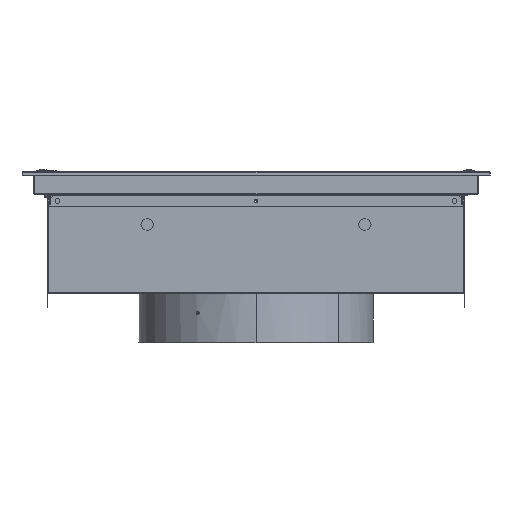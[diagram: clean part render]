
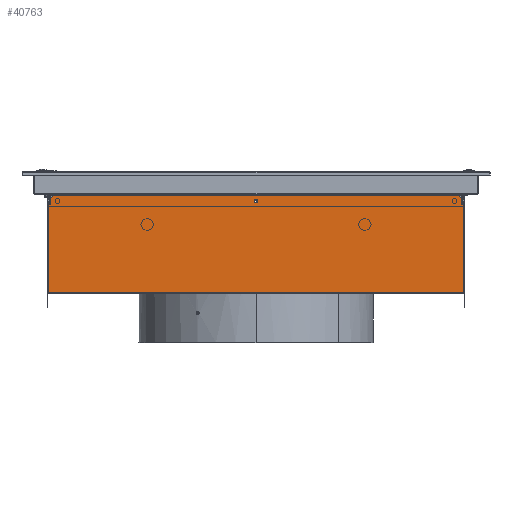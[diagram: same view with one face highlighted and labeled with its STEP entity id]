
A CAD part, left-side view. The second image highlights one B-rep face of the part: STEP entity #40763.
In plain terms, the highlighted planar face has unit normal (-1, 0, 0).
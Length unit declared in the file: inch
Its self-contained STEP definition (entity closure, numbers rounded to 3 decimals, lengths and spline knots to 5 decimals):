
#42 = CARTESIAN_POINT ( 'NONE',  ( -10.56225, -10.51786, -1.44861 ) ) ;
#100 = CIRCLE ( 'NONE', #2800, 0.015 ) ;
#129 = EDGE_CURVE ( 'NONE', #21014, #12484, #18134, .T. ) ;
#250 = CARTESIAN_POINT ( 'NONE',  ( -10.56225, 10.52225, -6.137 ) ) ;
#384 = CARTESIAN_POINT ( 'NONE',  ( -10.56225, 10.27225, -1.203 ) ) ;
#393 = VECTOR ( 'NONE', #26687, 39.37008 ) ;
#602 = DIRECTION ( 'NONE',  ( -1., 0., 0. ) ) ;
#861 = CARTESIAN_POINT ( 'NONE',  ( -10.56225, 0., -1.5046 ) ) ;
#986 = VECTOR ( 'NONE', #12962, 39.37008 ) ;
#1019 = DIRECTION ( 'NONE',  ( 0., 0., -1. ) ) ;
#1525 = VERTEX_POINT ( 'NONE', #34697 ) ;
#1643 = VECTOR ( 'NONE', #39242, 39.37008 ) ;
#1704 = LINE ( 'NONE', #36476, #26811 ) ;
#2120 = VECTOR ( 'NONE', #2717, 39.37008 ) ;
#2134 = CIRCLE ( 'NONE', #7459, 0.075 ) ;
#2251 = EDGE_CURVE ( 'NONE', #26193, #24496, #8034, .T. ) ;
#2717 = DIRECTION ( 'NONE',  ( 0., -1., 0. ) ) ;
#2762 = VERTEX_POINT ( 'NONE', #37942 ) ;
#2777 = EDGE_CURVE ( 'NONE', #1525, #26836, #37746, .T. ) ;
#2800 = AXIS2_PLACEMENT_3D ( 'NONE', #23375, #3635, #38799 ) ;
#3229 = EDGE_CURVE ( 'NONE', #34950, #2762, #29526, .T. ) ;
#3635 = DIRECTION ( 'NONE',  ( -1., 0., 0. ) ) ;
#3742 = AXIS2_PLACEMENT_3D ( 'NONE', #36441, #13763, #17257 ) ;
#4240 = CARTESIAN_POINT ( 'NONE',  ( -10.56225, 0.075, -1.5796 ) ) ;
#5124 = EDGE_LOOP ( 'NONE', ( #23771, #34590, #30477, #41146, #41100, #19510, #17912, #22042, #30864, #27299, #12081, #23821, #40172 ) ) ;
#5824 = EDGE_CURVE ( 'NONE', #12029, #16262, #16402, .T. ) ;
#5844 = CARTESIAN_POINT ( 'NONE',  ( -10.56225, 10.56225, -1.203 ) ) ;
#5920 = VERTEX_POINT ( 'NONE', #18671 ) ;
#6813 = CIRCLE ( 'NONE', #9486, 0.015 ) ;
#6887 = EDGE_CURVE ( 'NONE', #23737, #10101, #38903, .T. ) ;
#6971 = CARTESIAN_POINT ( 'NONE',  ( -10.56225, 0., -1.091 ) ) ;
#7088 = CARTESIAN_POINT ( 'NONE',  ( -10.56225, -10.52225, -1.45921 ) ) ;
#7459 = AXIS2_PLACEMENT_3D ( 'NONE', #861, #13774, #26460 ) ;
#8034 = LINE ( 'NONE', #20496, #1643 ) ;
#8178 = DIRECTION ( 'NONE',  ( 0., 0., 1. ) ) ;
#8231 = AXIS2_PLACEMENT_3D ( 'NONE', #37823, #37436, #8717 ) ;
#8717 = DIRECTION ( 'NONE',  ( 0., 0., -1. ) ) ;
#9486 = AXIS2_PLACEMENT_3D ( 'NONE', #10819, #602, #33080 ) ;
#10101 = VERTEX_POINT ( 'NONE', #31391 ) ;
#10381 = CARTESIAN_POINT ( 'NONE',  ( -10.56225, -10.26604, -1.218 ) ) ;
#10593 = CARTESIAN_POINT ( 'NONE',  ( -10.56225, -0.075, -1.5046 ) ) ;
#10612 = CARTESIAN_POINT ( 'NONE',  ( -10.56225, -0.075, -1.5796 ) ) ;
#10715 = CARTESIAN_POINT ( 'NONE',  ( -10.56225, -10.26604, -1.203 ) ) ;
#10819 = CARTESIAN_POINT ( 'NONE',  ( -10.56225, -10.50725, -1.45921 ) ) ;
#10849 = VECTOR ( 'NONE', #37166, 39.37008 ) ;
#11143 = EDGE_CURVE ( 'NONE', #24496, #12797, #6813, .T. ) ;
#11471 = EDGE_CURVE ( 'NONE', #5920, #10101, #12147, .T. ) ;
#11515 = AXIS2_PLACEMENT_3D ( 'NONE', #14435, #14856, #17339 ) ;
#11728 = CARTESIAN_POINT ( 'NONE',  ( -10.56225, 10.26604, -1.203 ) ) ;
#11776 = LINE ( 'NONE', #24443, #10849 ) ;
#12029 = VERTEX_POINT ( 'NONE', #32932 ) ;
#12081 = ORIENTED_EDGE ( 'NONE', *, *, #11143, .T. ) ;
#12147 = CIRCLE ( 'NONE', #35403, 0.113 ) ;
#12484 = VERTEX_POINT ( 'NONE', #10715 ) ;
#12797 = VERTEX_POINT ( 'NONE', #42 ) ;
#12962 = DIRECTION ( 'NONE',  ( 0., 0., 1. ) ) ;
#13009 = ORIENTED_EDGE ( 'NONE', *, *, #16706, .T. ) ;
#13097 = DIRECTION ( 'NONE',  ( 0., 0.707, -0.707 ) ) ;
#13763 = DIRECTION ( 'NONE',  ( -1., 0., 0. ) ) ;
#13774 = DIRECTION ( 'NONE',  ( 1., 0., 0. ) ) ;
#13907 = DIRECTION ( 'NONE',  ( 0., -1., 0. ) ) ;
#14083 = VECTOR ( 'NONE', #1019, 39.37008 ) ;
#14435 = CARTESIAN_POINT ( 'NONE',  ( -10.56225, 0., -1.091 ) ) ;
#14856 = DIRECTION ( 'NONE',  ( 1., 0., 0. ) ) ;
#15273 = EDGE_CURVE ( 'NONE', #27834, #5920, #32097, .T. ) ;
#16262 = VERTEX_POINT ( 'NONE', #28876 ) ;
#16402 = LINE ( 'NONE', #384, #33355 ) ;
#16706 = EDGE_CURVE ( 'NONE', #28960, #32253, #1704, .T. ) ;
#16986 = DIRECTION ( 'NONE',  ( 0., 0., -1. ) ) ;
#17143 = VECTOR ( 'NONE', #13907, 39.37008 ) ;
#17257 = DIRECTION ( 'NONE',  ( 0., 0., -1. ) ) ;
#17339 = DIRECTION ( 'NONE',  ( 0., 0., -1. ) ) ;
#17912 = ORIENTED_EDGE ( 'NONE', *, *, #23811, .T. ) ;
#18134 = CIRCLE ( 'NONE', #18802, 0.015 ) ;
#18671 = CARTESIAN_POINT ( 'NONE',  ( -10.56225, 0., -1.204 ) ) ;
#18802 = AXIS2_PLACEMENT_3D ( 'NONE', #10381, #26773, #16986 ) ;
#19510 = ORIENTED_EDGE ( 'NONE', *, *, #5824, .T. ) ;
#20496 = CARTESIAN_POINT ( 'NONE',  ( -10.56225, -10.52225, -6.137 ) ) ;
#20864 = LINE ( 'NONE', #4240, #393 ) ;
#21013 = CARTESIAN_POINT ( 'NONE',  ( -10.56225, 0.075, -1.5046 ) ) ;
#21014 = VERTEX_POINT ( 'NONE', #26130 ) ;
#22042 = ORIENTED_EDGE ( 'NONE', *, *, #2777, .F. ) ;
#23375 = CARTESIAN_POINT ( 'NONE',  ( -10.56225, 10.26604, -1.218 ) ) ;
#23630 = EDGE_CURVE ( 'NONE', #2762, #28960, #20864, .T. ) ;
#23737 = VERTEX_POINT ( 'NONE', #11728 ) ;
#23771 = ORIENTED_EDGE ( 'NONE', *, *, #29168, .F. ) ;
#23811 = EDGE_CURVE ( 'NONE', #16262, #26836, #34324, .T. ) ;
#23821 = ORIENTED_EDGE ( 'NONE', *, *, #39990, .T. ) ;
#24443 = CARTESIAN_POINT ( 'NONE',  ( -10.56225, -10.52225, -1.453 ) ) ;
#24496 = VERTEX_POINT ( 'NONE', #7088 ) ;
#24649 = LINE ( 'NONE', #34240, #28772 ) ;
#26130 = CARTESIAN_POINT ( 'NONE',  ( -10.56225, -10.27664, -1.20739 ) ) ;
#26193 = VERTEX_POINT ( 'NONE', #36573 ) ;
#26460 = DIRECTION ( 'NONE',  ( 0., 0., -1. ) ) ;
#26687 = DIRECTION ( 'NONE',  ( 0., 1., 0. ) ) ;
#26773 = DIRECTION ( 'NONE',  ( -1., 0., 0. ) ) ;
#26811 = VECTOR ( 'NONE', #8178, 39.37008 ) ;
#26836 = VERTEX_POINT ( 'NONE', #35194 ) ;
#27299 = ORIENTED_EDGE ( 'NONE', *, *, #2251, .T. ) ;
#27834 = VERTEX_POINT ( 'NONE', #35974 ) ;
#28772 = VECTOR ( 'NONE', #30897, 39.37008 ) ;
#28876 = CARTESIAN_POINT ( 'NONE',  ( -10.56225, 10.51786, -1.44861 ) ) ;
#28960 = VERTEX_POINT ( 'NONE', #30818 ) ;
#29168 = EDGE_CURVE ( 'NONE', #27834, #12484, #37695, .T. ) ;
#29526 = LINE ( 'NONE', #10612, #14083 ) ;
#29613 = DIRECTION ( 'NONE',  ( 0., 0., -1. ) ) ;
#30477 = ORIENTED_EDGE ( 'NONE', *, *, #11471, .T. ) ;
#30818 = CARTESIAN_POINT ( 'NONE',  ( -10.56225, 0.075, -1.5796 ) ) ;
#30864 = ORIENTED_EDGE ( 'NONE', *, *, #39882, .F. ) ;
#30897 = DIRECTION ( 'NONE',  ( 0., 1., 0. ) ) ;
#31377 = FACE_BOUND ( 'NONE', #33238, .T. ) ;
#31391 = CARTESIAN_POINT ( 'NONE',  ( -10.56225, 0.015, -1.203 ) ) ;
#31404 = ORIENTED_EDGE ( 'NONE', *, *, #3229, .T. ) ;
#31782 = PLANE ( 'NONE',  #8231 ) ;
#32097 = CIRCLE ( 'NONE', #11515, 0.113 ) ;
#32253 = VERTEX_POINT ( 'NONE', #21013 ) ;
#32448 = ORIENTED_EDGE ( 'NONE', *, *, #23630, .T. ) ;
#32932 = CARTESIAN_POINT ( 'NONE',  ( -10.56225, 10.27664, -1.20739 ) ) ;
#33080 = DIRECTION ( 'NONE',  ( 0., 0., -1. ) ) ;
#33238 = EDGE_LOOP ( 'NONE', ( #13009, #39096, #31404, #32448 ) ) ;
#33355 = VECTOR ( 'NONE', #13097, 39.37008 ) ;
#34240 = CARTESIAN_POINT ( 'NONE',  ( -10.56225, 10.56225, -6.137 ) ) ;
#34324 = CIRCLE ( 'NONE', #3742, 0.015 ) ;
#34590 = ORIENTED_EDGE ( 'NONE', *, *, #15273, .T. ) ;
#34697 = CARTESIAN_POINT ( 'NONE',  ( -10.56225, 10.52225, -6.137 ) ) ;
#34950 = VERTEX_POINT ( 'NONE', #10593 ) ;
#35194 = CARTESIAN_POINT ( 'NONE',  ( -10.56225, 10.52225, -1.45921 ) ) ;
#35270 = DIRECTION ( 'NONE',  ( 1., 0., 0. ) ) ;
#35403 = AXIS2_PLACEMENT_3D ( 'NONE', #6971, #35270, #29613 ) ;
#35974 = CARTESIAN_POINT ( 'NONE',  ( -10.56225, -0.015, -1.203 ) ) ;
#36198 = CARTESIAN_POINT ( 'NONE',  ( -10.56225, 10.56225, -1.203 ) ) ;
#36441 = CARTESIAN_POINT ( 'NONE',  ( -10.56225, 10.50725, -1.45921 ) ) ;
#36476 = CARTESIAN_POINT ( 'NONE',  ( -10.56225, 0.075, -1.5046 ) ) ;
#36573 = CARTESIAN_POINT ( 'NONE',  ( -10.56225, -10.52225, -6.137 ) ) ;
#37166 = DIRECTION ( 'NONE',  ( 0., 0.707, 0.707 ) ) ;
#37436 = DIRECTION ( 'NONE',  ( 1., 0., 0. ) ) ;
#37695 = LINE ( 'NONE', #5844, #2120 ) ;
#37746 = LINE ( 'NONE', #250, #986 ) ;
#37823 = CARTESIAN_POINT ( 'NONE',  ( -10.56225, 0., 0. ) ) ;
#37942 = CARTESIAN_POINT ( 'NONE',  ( -10.56225, -0.075, -1.5796 ) ) ;
#38128 = EDGE_CURVE ( 'NONE', #23737, #12029, #100, .T. ) ;
#38496 = EDGE_CURVE ( 'NONE', #32253, #34950, #2134, .T. ) ;
#38799 = DIRECTION ( 'NONE',  ( 0., 0., -1. ) ) ;
#38903 = LINE ( 'NONE', #36198, #17143 ) ;
#39096 = ORIENTED_EDGE ( 'NONE', *, *, #38496, .T. ) ;
#39242 = DIRECTION ( 'NONE',  ( 0., 0., 1. ) ) ;
#39882 = EDGE_CURVE ( 'NONE', #26193, #1525, #24649, .T. ) ;
#39990 = EDGE_CURVE ( 'NONE', #12797, #21014, #11776, .T. ) ;
#40172 = ORIENTED_EDGE ( 'NONE', *, *, #129, .T. ) ;
#40338 = FACE_OUTER_BOUND ( 'NONE', #5124, .T. ) ;
#40763 = ADVANCED_FACE ( 'Face1', ( #31377, #40338 ), #31782, .F. ) ;
#41100 = ORIENTED_EDGE ( 'NONE', *, *, #38128, .T. ) ;
#41146 = ORIENTED_EDGE ( 'NONE', *, *, #6887, .F. ) ;
